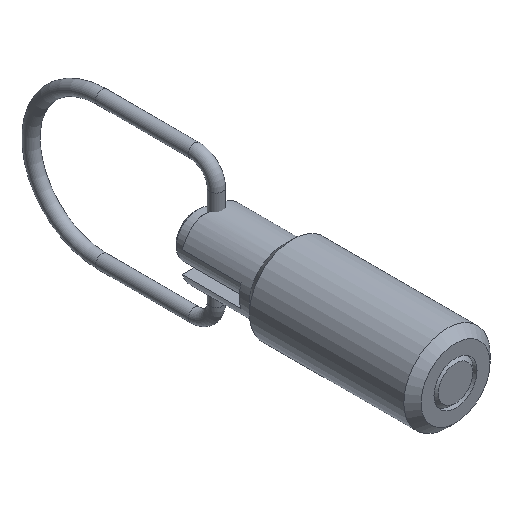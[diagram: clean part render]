
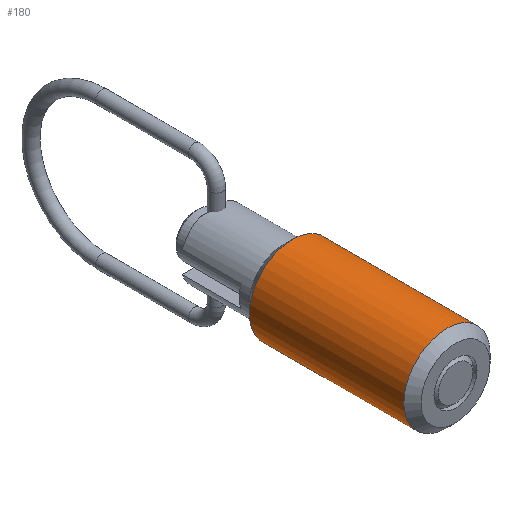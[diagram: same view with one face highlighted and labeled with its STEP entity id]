
A CAD part, isometric view. The second image highlights one B-rep face of the part: STEP entity #180.
In plain terms, the highlighted cylindrical face has radius 5 mm (diameter 10 mm), a full revolution.
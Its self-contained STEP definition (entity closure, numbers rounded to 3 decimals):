
#180 = ADVANCED_FACE( '', ( #242, #243 ), #244, .T. );
#242 = FACE_OUTER_BOUND( '', #357, .T. );
#243 = FACE_OUTER_BOUND( '', #358, .T. );
#244 = CYLINDRICAL_SURFACE( '', #359, 5. );
#357 = EDGE_LOOP( '', ( #527 ) );
#358 = EDGE_LOOP( '', ( #528 ) );
#359 = AXIS2_PLACEMENT_3D( '', #529, #530, #531 );
#527 = ORIENTED_EDGE( '', *, *, #735, .T. );
#528 = ORIENTED_EDGE( '', *, *, #736, .F. );
#529 = CARTESIAN_POINT( '', ( 0., 0., 0. ) );
#530 = DIRECTION( '', ( 0., 1., 0. ) );
#531 = DIRECTION( '', ( 0., 0., -1. ) );
#735 = EDGE_CURVE( '', #831, #831, #832, .T. );
#736 = EDGE_CURVE( '', #833, #833, #834, .T. );
#831 = VERTEX_POINT( '', #1019 );
#832 = CIRCLE( '', #1020, 5. );
#833 = VERTEX_POINT( '', #1021 );
#834 = CIRCLE( '', #1022, 5. );
#1019 = CARTESIAN_POINT( '', ( 0., 18.9, -5. ) );
#1020 = AXIS2_PLACEMENT_3D( '', #1202, #1203, #1204 );
#1021 = CARTESIAN_POINT( '', ( 0., 1., -5. ) );
#1022 = AXIS2_PLACEMENT_3D( '', #1205, #1206, #1207 );
#1202 = CARTESIAN_POINT( '', ( 0., 18.9, 0. ) );
#1203 = DIRECTION( '', ( 0., -1., 0. ) );
#1204 = DIRECTION( '', ( 0., 0., -1. ) );
#1205 = CARTESIAN_POINT( '', ( 0., 1., 0. ) );
#1206 = DIRECTION( '', ( 0., -1., 0. ) );
#1207 = DIRECTION( '', ( 0., 0., -1. ) );
